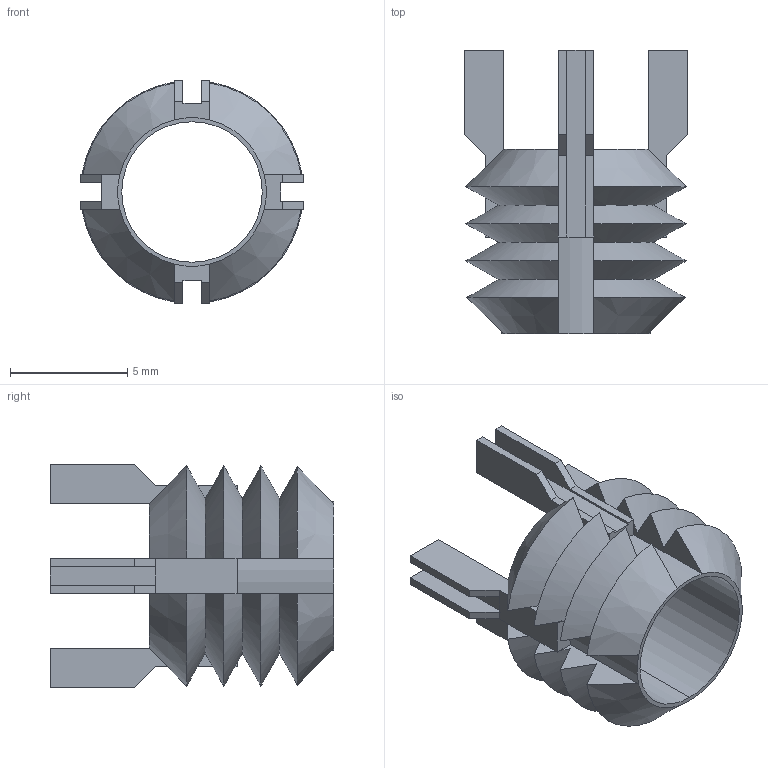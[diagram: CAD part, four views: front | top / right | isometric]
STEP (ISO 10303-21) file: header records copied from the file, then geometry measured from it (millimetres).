
FILE_DESCRIPTION (( 'STEP AP203' ), '1' );
FILE_NAME ('TR1535.66243.step', '2023-05-02T13:59:16', ( '' ), ( '' ), 'SwSTEP 2.0', 'SolidWorks 2019', '' );
FILE_SCHEMA (( 'CONFIG_CONTROL_DESIGN' ));
Length unit declared in the file: millimetre
Products named in the file (1): TR1535.66243
Bounding box: 9.57 x 12.11 x 9.57 mm (x, y, z)
Volume: 187.4 mm3; surface area: 664.7 mm2
Topology: 1 solids, 1 shells, 138 faces, 350 edges, 214 vertices
Faces by surface type: plane 100, cone 32, cylinder 6
Entity records: 4223 total; most frequent: CARTESIAN_POINT 1015, ORIENTED_EDGE 700, DIRECTION 572, EDGE_CURVE 350, VERTEX_POINT 214, LINE 198, VECTOR 198, AXIS2_PLACEMENT_3D 187
